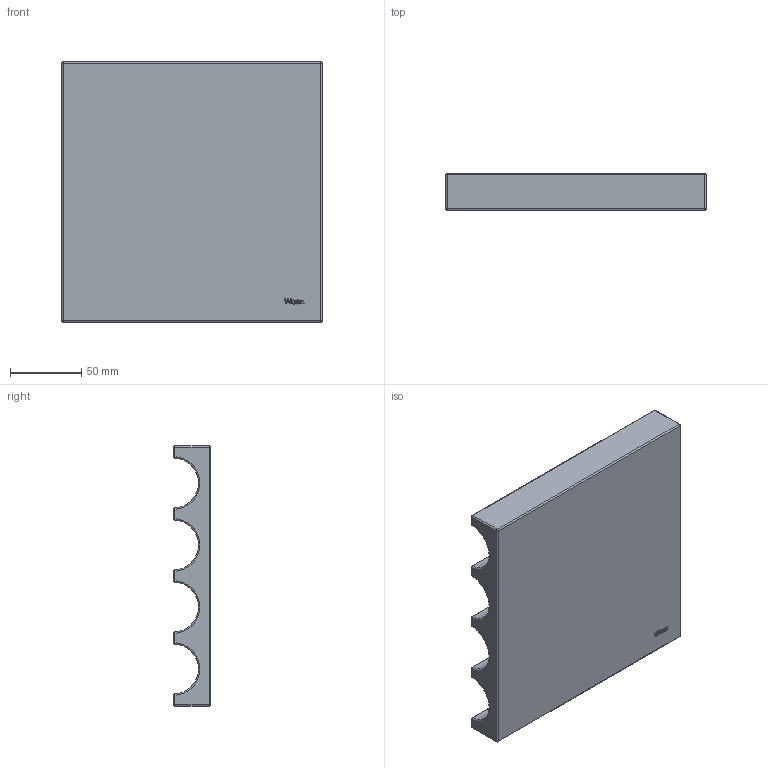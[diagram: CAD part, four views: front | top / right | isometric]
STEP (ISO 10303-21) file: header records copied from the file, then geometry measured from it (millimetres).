
FILE_DESCRIPTION (( 'STEP AP203' ), '1' );
FILE_NAME ('GINCANA TRAY NUTS 1.STEP', '2023-06-29T09:50:27', ( '' ), ( '' ), 'SwSTEP 2.0', 'SolidWorks 2023', '' );
FILE_SCHEMA (( 'CONFIG_CONTROL_DESIGN' ));
Length unit declared in the file: millimetre
Products named in the file (1): GINCANA TRAY NUTS 1
Bounding box: 183 x 26 x 183 mm (x, y, z)
Volume: 517923.9 mm3; surface area: 95453.5 mm2
Topology: 1 solids, 1 shells, 132 faces, 324 edges, 176 vertices
Faces by surface type: plane 52, cylinder 32, sphere 24, bspline 16, torus 8
Entity records: 3833 total; most frequent: CARTESIAN_POINT 861, ORIENTED_EDGE 600, DIRECTION 590, EDGE_CURVE 300, AXIS2_PLACEMENT_3D 205, LINE 180, VECTOR 180, VERTEX_POINT 176
